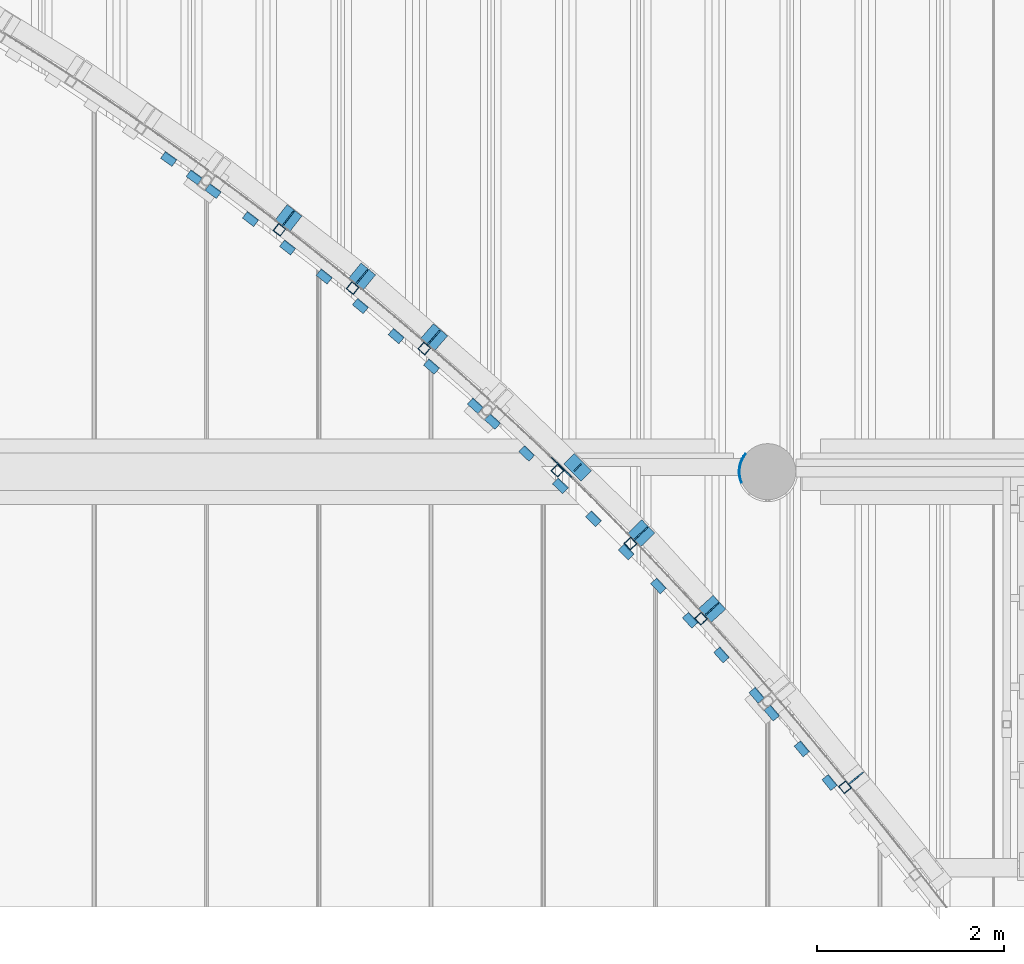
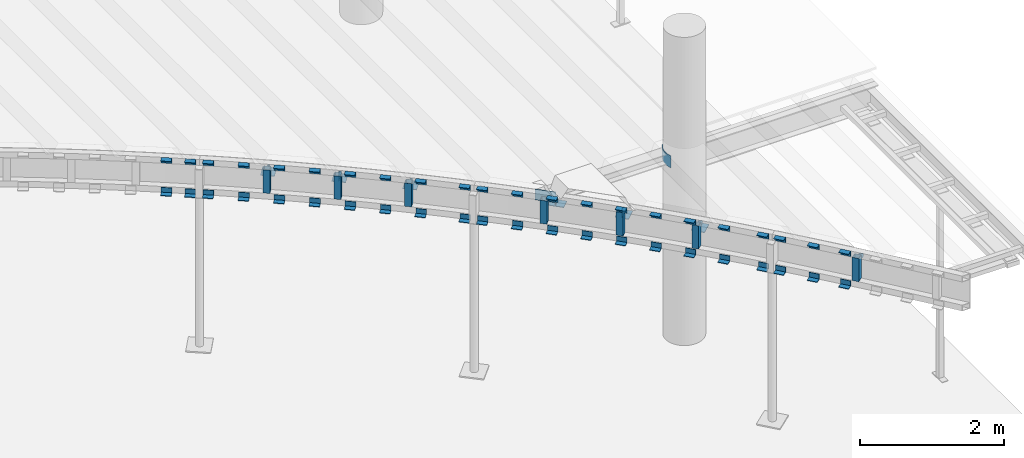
# One storey, part 24 of 98: 66 beams.
"""IFC2X3 building model written with IfcOpenShell, lengths in millimetres."""

from ifc_helpers import new_model, entity, si_unit, converted_unit, derived_unit, direction, frame, origin_with_axes, place, context, subcontext, project, spatial, faceted_brep, material, type_object, element, save


model = new_model("IFC2X3")

# Units and contexts
model_context = context("Model", 3, precision=0.01, world=frame((0.0, 4.29681676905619e-09, 0.0)), true_north=direction((4.01073788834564e-13, 1.0)))
plan_context = context("Plan", 3, precision=0.01, world=frame((0.0, 4.29681676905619e-09, 0.0)), true_north=direction((4.01073788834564e-13, 1.0)))
body_context = subcontext(model_context, "Body", "Model", "MODEL_VIEW")
ifc_project = project(units=[converted_unit("PLANEANGLEUNIT", "DEGREE", entity("IfcPositiveLengthMeasure", 0.0174532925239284), si_unit("PLANEANGLEUNIT", "RADIAN"), dimensions=[0, 0, 0, 0, 0, 0, 0]), si_unit("AREAUNIT", "SQUARE_METRE"), si_unit("LENGTHUNIT", "METRE", prefix="MILLI"), si_unit("MASSUNIT", "GRAM", prefix="KILO"), si_unit("POWERUNIT", "WATT"), si_unit("PRESSUREUNIT", "PASCAL"), si_unit("FORCEUNIT", "NEWTON", prefix="KILO"), si_unit("ELECTRICCURRENTUNIT", "AMPERE"), si_unit("THERMODYNAMICTEMPERATUREUNIT", "DEGREE_CELSIUS"), si_unit("TIMEUNIT", "SECOND"), si_unit("VOLUMEUNIT", "CUBIC_METRE"), derived_unit("LINEARVELOCITYUNIT", [(si_unit("LENGTHUNIT", "METRE"), 1), (si_unit("TIMEUNIT", "SECOND"), -1)]), derived_unit("VOLUMETRICFLOWRATEUNIT", [(si_unit("VOLUMEUNIT", "CUBIC_METRE"), 1), (si_unit("TIMEUNIT", "SECOND"), -1)]), derived_unit("THERMALTRANSMITTANCEUNIT", [(si_unit("POWERUNIT", "WATT"), 1), (si_unit("THERMODYNAMICTEMPERATUREUNIT", "KELVIN"), -1), (si_unit("AREAUNIT", "SQUARE_METRE"), -1)])], contexts=[model_context, plan_context])

# Site, building, storey
site_placement = place(None, frame((0.0, -4.29681676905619e-09, 0.0), z_axis=(0.0, 0.0, 1.0), x_axis=(1.0, 0.0, 0.0)))
site = spatial("IfcSite", under=ifc_project, at=site_placement, Name="Gardermoen", CompositionType="ELEMENT")
building_placement = place(site_placement, frame((0.0, 4.29681676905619e-09, 0.0), z_axis=(0.0, 0.0, 1.0), x_axis=(1.0, 0.0, 0.0)))
building = spatial("IfcBuilding", under=site, at=building_placement, Name="TS", CompositionType="ELEMENT")
storey_placement = place(building_placement, origin_with_axes())
storey = spatial("IfcBuildingStorey", under=building, at=storey_placement, Name="D", CompositionType="ELEMENT", Elevation=0.0)

# Beams
ifc_material = material(Name="STEEL/S355")
beam_type_1 = type_object("IfcBeamType", Name="PL10*200", PredefinedType="NOTDEFINED")
beam_1_placement = place(storey_placement, frame((528761.674896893, 405689.169281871, 207014.501811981), z_axis=(0.0, 0.0, 1.0), x_axis=(-0.138014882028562, -0.990430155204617, 0.0)))
element("IfcBeam", 1, at=beam_1_placement, inside=storey, type_object=beam_type_1, material=ifc_material, Name="STÅLBJELKE", ObjectType="PL10*200", context=body_context, shape_type="Brep", body=[
    faceted_brep([(2.52811028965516, 4.31377541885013, -100.0), (2.52811028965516, 4.31377541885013, 100.0), (30.7693738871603, -10.2847250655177, 100.0), (30.7693738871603, -10.2847250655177, -100.0), (-2.52811028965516, -4.3137754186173, 100.0), (26.6545287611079, -19.3988925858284, 100.0), (-2.52811028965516, -4.3137754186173, -100.0), (26.6545287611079, -19.3988925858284, -100.0), (60.3969084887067, -21.8127075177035, 100.0), (60.3969084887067, -21.8127075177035, -100.0), (57.2696478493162, -31.3111411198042, 100.0), (57.2696478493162, -31.3111411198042, -100.0), (91.078001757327, -30.1407145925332, 100.0), (91.078001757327, -30.1407145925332, -100.0), (88.9734442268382, -39.9167484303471, 100.0), (88.9734442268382, -39.9167484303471, -100.0), (122.468110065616, -35.1752241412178, 100.0), (122.468110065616, -35.1752241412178, -100.0), (121.40988947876, -45.1190749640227, 100.0), (121.40988947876, -45.1190749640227, -100.0), (154.214727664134, -36.8596994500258, 100.0), (154.214727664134, -36.8596994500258, -100.0), (154.214727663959, -46.8596994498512, 100.0), (154.214727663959, -46.8596994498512, -100.0), (185.961345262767, -35.1752241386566, 100.0), (185.961345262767, -35.1752241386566, -100.0), (187.019565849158, -45.119074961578, 100.0), (187.019565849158, -45.119074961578, -100.0), (217.351453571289, -30.140714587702, 100.0), (217.351453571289, -30.140714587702, -100.0), (219.456011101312, -39.916748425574, 100.0), (219.456011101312, -39.916748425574, -100.0), (248.032546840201, -21.8127075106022, 100.0), (248.032546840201, -21.8127075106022, -100.0), (251.159807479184, -31.3111411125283, 100.0), (251.159807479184, -31.3111411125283, -100.0), (277.660081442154, -10.2847250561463, 100.0), (277.660081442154, -10.2847250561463, -100.0), (281.774926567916, -19.3988925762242, 100.0), (281.774926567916, -19.3988925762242, -100.0), (305.9013450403, 4.31377543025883, 100.0), (305.9013450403, 4.31377543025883, -100.0), (310.957565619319, -4.31377540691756, 100.0), (310.957565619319, -4.31377540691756, -100.0)], [[[0, 1, 2, 3]], [[1, 4, 5, 2]], [[4, 6, 7, 5]], [[6, 0, 3, 7]], [[6, 4, 1, 0]], [[3, 2, 8, 9]], [[2, 5, 10, 8]], [[5, 7, 11, 10]], [[7, 3, 9, 11]], [[9, 8, 12, 13]], [[8, 10, 14, 12]], [[10, 11, 15, 14]], [[11, 9, 13, 15]], [[13, 12, 16, 17]], [[12, 14, 18, 16]], [[14, 15, 19, 18]], [[15, 13, 17, 19]], [[17, 16, 20, 21]], [[16, 18, 22, 20]], [[18, 19, 23, 22]], [[19, 17, 21, 23]], [[21, 20, 24, 25]], [[20, 22, 26, 24]], [[22, 23, 27, 26]], [[23, 21, 25, 27]], [[25, 24, 28, 29]], [[24, 26, 30, 28]], [[26, 27, 31, 30]], [[27, 25, 29, 31]], [[29, 28, 32, 33]], [[28, 30, 34, 32]], [[30, 31, 35, 34]], [[31, 29, 33, 35]], [[33, 32, 36, 37]], [[32, 34, 38, 36]], [[34, 35, 39, 38]], [[35, 33, 37, 39]], [[37, 36, 40, 41]], [[36, 38, 42, 40]], [[38, 39, 43, 42]], [[39, 37, 41, 43]], [[42, 43, 41, 40]]]),
])
for number, where, z_axis, x_axis in (
    (2, (527792.136873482, 404842.479803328, 206828.0), (-0.721485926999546, -0.69242909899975, 0.0), (-0.69242909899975, 0.721485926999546, 0.0)),
    (3, (524807.769576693, 407603.283677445, 206828.0), (-0.635772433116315, -0.771876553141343, 0.0), (-0.771876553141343, 0.635772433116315, 0.0)),
    (4, (524020.836157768, 408232.226948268, 206828.0), (-0.616724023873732, -0.787179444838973, 0.0), (-0.787179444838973, 0.616724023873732, 0.0)),
):
    element("IfcBeam", number, at=place(storey_placement, frame(where, z_axis=z_axis, x_axis=x_axis)), inside=storey, type_object=beam_type_1, material=ifc_material, Name="STÅLBJELKE", ObjectType="PL10*200", context=body_context, shape_type="Brep", body=[
        faceted_brep([(0.0, -5.0, 0.0), (-0.454028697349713, -5.0, 209.566192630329), (-0.454028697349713, 5.0, 209.566192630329), (0.0, 5.0, 0.0), (199.544097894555, -5.0, 210.432800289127), (199.544097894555, 5.0, 210.432800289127), (200.0, -5.0, 0.0), (200.0, 5.0, -5.82076609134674e-11)], [[[0, 1, 2, 3]], [[1, 4, 5, 2]], [[4, 6, 7, 5]], [[6, 0, 3, 7]], [[5, 7, 3, 2]], [[6, 4, 1, 0]]]),
    ])
beam_2_placement = place(storey_placement, frame((525577.704154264, 406951.075389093, 206828.0), z_axis=(-0.657076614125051, -0.753823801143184, 0.0), x_axis=(-0.753823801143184, 0.657076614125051, 0.0)))
element("IfcBeam", 5, at=beam_2_placement, inside=storey, type_object=beam_type_1, material=ifc_material, Name="STÅLBJELKE", ObjectType="PL10*200", context=body_context, shape_type="Brep", body=[
    faceted_brep([(0.0, -5.0, 0.0), (-0.454967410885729, -5.0, 209.999496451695), (-0.454967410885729, 5.0, 209.999496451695), (0.0, 5.0, 0.0), (199.54315186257, -5.0, 210.86610411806), (199.54315186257, 5.0, 210.86610411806), (200.0, -5.0, 0.0), (200.0, 5.0, -5.82076609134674e-11)], [[[0, 1, 2, 3]], [[1, 4, 5, 2]], [[4, 6, 7, 5]], [[6, 0, 3, 7]], [[5, 7, 3, 2]], [[6, 4, 1, 0]]]),
])
beam_3_placement = place(storey_placement, frame((528550.68479424, 404030.339726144, 206828.0), z_axis=(-0.740538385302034, -0.672014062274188, 0.0), x_axis=(-0.672014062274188, 0.740538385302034, 0.0)))
element("IfcBeam", 6, at=beam_3_placement, inside=storey, type_object=beam_type_1, material=ifc_material, Name="STÅLBJELKE", ObjectType="PL10*200", context=body_context, shape_type="Brep", body=[
    faceted_brep([(0.0, -5.0, 0.0), (-0.454028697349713, -5.0, 209.566192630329), (-0.454028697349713, 5.0, 209.566192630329), (0.0, 5.0, 0.0), (199.544097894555, -5.0, 210.432800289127), (199.544097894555, 5.0, 210.432800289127), (200.0, -5.0, 0.0), (200.0, 5.0, -5.82076609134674e-11)], [[[0, 1, 2, 3]], [[1, 4, 5, 2]], [[4, 6, 7, 5]], [[6, 0, 3, 7]], [[5, 7, 3, 2]], [[6, 4, 1, 0]]]),
])
beam_type_2 = type_object("IfcBeamType", Name="PL10*180", PredefinedType="NOTDEFINED")
beam_4_placement = place(storey_placement, frame((526688.386806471, 405650.940677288, 207010.0), z_axis=(0.0, 0.0, 1.0), x_axis=(0.717918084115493, -0.696127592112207, 0.0)))
element("IfcBeam", 7, at=beam_4_placement, inside=storey, type_object=beam_type_2, material=ifc_material, Name="STÅLBJELKE", ObjectType="PL10*180", context=body_context, shape_type="Brep", body=[
    faceted_brep([(-1.19325704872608e-09, 4.99999999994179, -90.0000000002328), (0.0, 5.0, 90.0), (299.985345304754, 4.99999999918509, 90.0), (299.985345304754, 4.99999999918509, -90.0), (0.0, -5.0, 90.0), (299.985345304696, -5.00000000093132, 90.0), (-1.07684172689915e-09, -5.00000000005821, -90.0000000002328), (299.985345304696, -5.00000000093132, -90.0)], [[[0, 1, 2, 3]], [[1, 4, 5, 2]], [[4, 6, 7, 5]], [[6, 0, 3, 7]], [[5, 7, 3, 2]], [[6, 4, 1, 0]]]),
])
beam_type_3 = type_object("IfcBeamType", Name="L90*9", PredefinedType="NOTDEFINED")
for number, where, z_axis, x_axis in (
    (8, (528221.931546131, 403857.479188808, 207055.0), (0.0, 0.0, -1.0), (-0.674298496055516, 0.738458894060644, 0.0)),
    (9, (528221.931546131, 403857.479188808, 206550.0), (-0.738458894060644, -0.674298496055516, 0.0), (-0.674298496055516, 0.738458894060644, 0.0)),
    (10, (527883.537185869, 404224.536880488, 207055.0), (0.0, 0.0, -1.0), (-0.684670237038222, 0.728852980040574, 0.0)),
    (11, (527883.53718587, 404224.536880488, 206550.0), (-0.728852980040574, -0.684670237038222, 0.0), (-0.684670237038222, 0.728852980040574, 0.0)),
    (12, (527539.812221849, 404586.83480368, 207055.0), (0.0, 0.0, -1.0), (-0.695059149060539, 0.71895255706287, 0.0)),
    (13, (527539.812221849, 404586.83480368, 206550.0), (-0.71895255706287, -0.695059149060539, 0.0), (-0.695059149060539, 0.71895255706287, 0.0)),
    (14, (527190.696492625, 404944.383355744, 207055.0), (0.0, 0.0, -1.0), (-0.705329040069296, 0.708880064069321, 0.0)),
    (15, (527190.696492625, 404944.383355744, 206550.0), (-0.708880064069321, -0.705329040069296, 0.0), (-0.705329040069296, 0.708880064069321, 0.0)),
    (16, (526836.860566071, 405296.500603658, 207055.0), (0.0, 0.0, -1.0), (-0.715158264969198, 0.698962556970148, 0.0)),
    (17, (526836.860566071, 405296.500603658, 206550.0), (-0.698962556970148, -0.715158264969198, 0.0), (-0.715158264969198, 0.698962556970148, 0.0)),
    (18, (526477.854136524, 405643.644991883, 207055.0), (0.0, 0.0, -1.0), (-0.725215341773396, 0.688522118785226, 0.0)),
    (19, (526477.854136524, 405643.644991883, 206550.0), (-0.688522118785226, -0.725215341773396, 0.0), (-0.725215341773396, 0.688522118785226, 0.0)),
    (20, (529412.232593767, 402480.04978529, 207055.0), (0.0, 0.0, -1.0), (-0.639493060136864, 0.768796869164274, 0.0)),
    (21, (529412.232593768, 402480.04978529, 206550.0), (-0.768796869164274, -0.639493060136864, 0.0), (-0.639493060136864, 0.768796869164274, 0.0)),
    (22, (522930.791932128, 408602.874962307, 207055.0), (0.0, 0.0, -1.0), (-0.8096776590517, 0.586874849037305, 0.0)),
    (23, (522930.791932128, 408602.874962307, 206550.0), (-0.586874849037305, -0.8096776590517, 0.0), (-0.8096776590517, 0.586874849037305, 0.0)),
    (24, (522658.446469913, 408799.20883531, 207055.0), (0.0, 0.0, -1.0), (-0.81551570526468, 0.578734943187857, 0.0)),
    (25, (522658.446469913, 408799.20883531, 206550.0), (-0.578734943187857, -0.81551570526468, 0.0), (-0.81551570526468, 0.578734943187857, 0.0)),
    (26, (526114.183055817, 405985.333559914, 207055.0), (0.0, 0.0, -1.0), (-0.735153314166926, 0.677900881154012, 0.0)),
    (27, (526114.183055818, 405985.333559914, 206550.0), (-0.677900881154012, -0.735153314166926, 0.0), (-0.735153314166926, 0.677900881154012, 0.0)),
    (28, (524317.787565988, 407539.678049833, 207055.0), (0.0, 0.0, -1.0), (-0.779471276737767, 0.626437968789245, 0.0)),
    (29, (525930.122247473, 406154.585167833, 207055.0), (0.0, 0.0, -1.0), (-0.739730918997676, 0.672902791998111, 0.0)),
    (30, (523926.967146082, 407850.537926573, 207055.0), (0.0, 0.0, -1.0), (-0.788398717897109, 0.615164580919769, 0.0)),
    (31, (525462.799885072, 406573.880991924, 207055.0), (0.0, 0.0, -1.0), (-0.751772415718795, 0.659422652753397, 0.0)),
    (32, (523531.809809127, 408155.709665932, 207055.0), (0.0, 0.0, -1.0), (-0.797129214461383, 0.603808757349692, 0.0)),
    (33, (525085.762153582, 406901.291489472, 207055.0), (0.0, 0.0, -1.0), (-0.761157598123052, 0.648566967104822, 0.0)),
    (34, (523132.436499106, 408455.037311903, 207055.0), (0.0, 0.0, -1.0), (-0.805664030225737, 0.592372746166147, 0.0)),
    (35, (524704.051997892, 407223.245397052, 207055.0), (0.0, 0.0, -1.0), (-0.770371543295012, 0.637595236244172, 0.0)),
    (36, (528930.255224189, 403053.783349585, 207055.0), (0.0, 0.0, -1.0), (-0.651204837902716, 0.758902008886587, 0.0)),
    (37, (528555.055345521, 403485.717370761, 207055.0), (0.0, 0.0, -1.0), (-0.663553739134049, 0.748128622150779, 0.0)),
    (38, (529092.105359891, 402862.933440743, 207055.0), (0.0, 0.0, -1.0), (-0.645192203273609, 0.764020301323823, 0.0)),
    (39, (529708.688827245, 402120.384010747, 207055.0), (0.0, 0.0, -1.0), (-0.634622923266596, 0.772821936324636, 0.0)),
    (40, (529092.105359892, 402862.933440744, 206550.0), (-0.764020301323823, -0.645192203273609, 0.0), (-0.645192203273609, 0.764020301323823, 0.0)),
    (41, (529708.688827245, 402120.384010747, 206550.0), (-0.772821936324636, -0.634622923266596, 0.0), (-0.634622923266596, 0.772821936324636, 0.0)),
    (42, (528930.25522419, 403053.783349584, 206550.0), (-0.758902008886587, -0.651204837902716, 0.0), (-0.651204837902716, 0.758902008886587, 0.0)),
    (43, (528555.055345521, 403485.717370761, 206550.0), (-0.748128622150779, -0.663553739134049, 0.0), (-0.663553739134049, 0.748128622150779, 0.0)),
    (44, (524317.787565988, 407539.678049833, 206550.0), (-0.626437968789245, -0.779471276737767, 0.0), (-0.779471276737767, 0.626437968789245, 0.0)),
    (45, (525930.122247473, 406154.585167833, 206550.0), (-0.672902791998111, -0.739730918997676, 0.0), (-0.739730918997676, 0.672902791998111, 0.0)),
    (46, (523926.967146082, 407850.537926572, 206550.0), (-0.615164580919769, -0.788398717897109, 0.0), (-0.788398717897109, 0.615164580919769, 0.0)),
    (47, (525462.799885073, 406573.880991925, 206550.0), (-0.659422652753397, -0.751772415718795, 0.0), (-0.751772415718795, 0.659422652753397, 0.0)),
    (48, (523531.809809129, 408155.709665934, 206550.0), (-0.603808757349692, -0.797129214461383, 0.0), (-0.797129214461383, 0.603808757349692, 0.0)),
    (49, (525085.762153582, 406901.29148947, 206550.0), (-0.648566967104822, -0.761157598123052, 0.0), (-0.761157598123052, 0.648566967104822, 0.0)),
    (50, (523132.436499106, 408455.037311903, 206550.0), (-0.592372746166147, -0.805664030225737, 0.0), (-0.805664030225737, 0.592372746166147, 0.0)),
    (51, (524704.051997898, 407223.245397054, 206550.0), (-0.637595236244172, -0.770371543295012, 0.0), (-0.770371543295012, 0.637595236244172, 0.0)),
):
    element("IfcBeam", number, at=place(storey_placement, frame(where, z_axis=z_axis, x_axis=x_axis)), inside=storey, type_object=beam_type_3, material=ifc_material, Name="STÅLBJELKE", ObjectType="L90*9", context=body_context, shape_type="Brep", body=[
        faceted_brep([(3.49245965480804e-10, 45.0, -45.0), (-3.20142135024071e-10, 45.0, 45.0), (150.176599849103, 44.999999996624, 45.0), (150.176599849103, 44.999999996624, -45.0), (6.98491930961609e-10, 36.0, 45.0000000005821), (150.176599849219, 35.999999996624, 45.0), (-4.07453626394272e-10, 36.0, -36.0000000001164), (150.176599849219, 35.999999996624, -36.0), (-5.23868948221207e-10, -45.0, -36.0000000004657), (150.176599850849, -45.0000000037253, -36.0), (3.49245965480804e-10, -45.0, -45.0), (150.176599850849, -45.0000000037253, -45.0)], [[[0, 1, 2, 3]], [[1, 4, 5, 2]], [[4, 6, 7, 5]], [[6, 8, 9, 7]], [[8, 10, 11, 9]], [[10, 0, 3, 11]], [[5, 7, 9, 11, 3, 2]], [[10, 8, 6, 4, 1, 0]]]),
    ])
beam_type_4 = type_object("IfcBeamType", Name="PL10*150", PredefinedType="NOTDEFINED")
for number, where, z_axis, x_axis in (
    (52, (527712.774503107, 404904.881371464, 206983.0), (-0.719969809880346, -0.694005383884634, 0.0), (0.0, 0.0, -1.0)),
    (53, (524721.668762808, 407655.999817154, 206983.0), (-0.634082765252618, -0.773265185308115, 0.0), (0.0, 0.0, -1.0)),
    (54, (530019.415748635, 402284.875733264, 206983.0), (-0.777710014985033, -0.628623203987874, 0.0), (0.0, 0.0, -1.0)),
    (55, (523933.455717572, 408282.802806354, 206983.0), (-0.615012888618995, -0.788517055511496, 0.0), (0.0, 0.0, -1.0)),
    (56, (525492.870734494, 407005.916111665, 206983.0), (-0.655443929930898, -0.755243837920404, 0.0), (0.0, 0.0, -1.0)),
    (57, (528473.015358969, 404094.85227819, 206983.0), (-0.739033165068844, -0.673669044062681, 0.0), (0.0, 0.0, -1.0)),
):
    element("IfcBeam", number, at=place(storey_placement, frame(where, z_axis=z_axis, x_axis=x_axis)), inside=storey, type_object=beam_type_4, material=ifc_material, Name="STÅLBJELKE", ObjectType="PL10*150", context=body_context, shape_type="Brep", body=[
        faceted_brep([(0.0, -5.0, 150.0), (2.91038304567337e-11, -5.0000000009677, 195.946411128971), (2.91038304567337e-11, 4.99999999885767, 195.946411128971), (0.0, 5.0, 150.0), (150.0, -5.0000000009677, 195.946411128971), (150.0, 4.99999999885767, 195.946411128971), (150.0, -4.99999999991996, 0.0), (150.0, 4.99999999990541, 1.16415321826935e-10), (99.9999999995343, -4.99999999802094, 7.21774995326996e-09), (99.9999999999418, 5.00000000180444, 6.81029632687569e-09)], [[[0, 1, 2, 3]], [[1, 4, 5, 2]], [[4, 6, 7, 5]], [[6, 8, 9, 7]], [[8, 0, 3, 9]], [[5, 7, 9, 3, 2]], [[8, 6, 4, 1, 0]]]),
    ])
beam_type_5 = type_object("IfcBeamType", Name="PL10*160", PredefinedType="NOTDEFINED")
beam_5_placement = place(storey_placement, frame((527116.599566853, 405509.229088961, 206828.0), z_axis=(-0.707109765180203, -0.7071037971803, 0.0), x_axis=(-0.7071037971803, 0.707109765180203, 0.0)))
element("IfcBeam", 58, at=beam_5_placement, inside=storey, type_object=beam_type_5, material=ifc_material, Name="STÅLBJELKE", ObjectType="PL10*160", context=body_context, shape_type="Brep", body=[
    faceted_brep([(0.0, -5.0, 0.0), (-0.000675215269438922, -5.0, 160.000000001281), (-0.000675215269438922, 5.0, 160.000000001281), (0.0, 5.0, 0.0), (259.997467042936, -5.0, 159.999999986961), (259.997467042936, 5.0, 159.999999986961), (260.000000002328, -5.0, -1.92085281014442e-08), (260.000000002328, 5.0, -1.92085281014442e-08)], [[[0, 1, 2, 3]], [[1, 4, 5, 2]], [[4, 6, 7, 5]], [[6, 0, 3, 7]], [[5, 7, 3, 2]], [[6, 4, 1, 0]]]),
])
beam_type_6 = type_object("IfcBeamType", Name="PL10*96", PredefinedType="NOTDEFINED")
beam_6_placement = place(storey_placement, frame((527003.466073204, 405579.943358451, 206929.0), z_axis=(-0.707100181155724, -0.707113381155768, 0.0), x_axis=(0.0, 0.0, -1.0)))
element("IfcBeam", 59, at=beam_6_placement, inside=storey, type_object=beam_type_6, material=ifc_material, Name="STÅLBJELKE", ObjectType="PL10*96", context=body_context, shape_type="Brep", body=[
    faceted_brep([(0.0, -5.0, 0.0), (-4.13769157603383e-06, -5.0, 100.0), (-4.13763336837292e-06, 4.99999999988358, 100.0), (0.0, 5.0, 0.0), (96.0, -4.99999999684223, 100.000000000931), (96.0, 5.00000000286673, 100.000000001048), (96.0, -4.99999999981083, -1.16415321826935e-10), (96.0, 4.99999999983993, 0.0)], [[[0, 1, 2, 3]], [[1, 4, 5, 2]], [[4, 6, 7, 5]], [[6, 0, 3, 7]], [[5, 7, 3, 2]], [[6, 4, 1, 0]]]),
])
beam_type_7 = type_object("IfcBeamType", Name="RHS100*6.3", PredefinedType="NOTDEFINED")
for number, where, z_axis, x_axis in (
    (60, (527532.69173021, 404731.822439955, 206605.0), (-0.72537437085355, -0.688354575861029, 0.0), (0.0, 0.0, 1.0)),
    (61, (524563.244902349, 407462.576301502, 206605.0), (0.774944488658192, -0.632029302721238, 0.0), (0.0, 0.0, 1.0)),
    (62, (526753.185614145, 405510.888555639, 206605.0), (-0.695912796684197, -0.718126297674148, 0.0), (0.0, 0.0, 1.0)),
    (63, (529825.495630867, 402127.365637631, 206605.0), (-0.777145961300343, -0.629320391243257, 0.0), (0.0, 0.0, 1.0)),
    (64, (528285.969897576, 403929.024749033, 206605.0), (-0.737277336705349, -0.675590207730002, 0.0), (0.0, 0.0, 1.0)),
    (65, (523779.807697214, 408085.723281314, 206605.0), (0.789084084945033, -0.614285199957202, 0.0), (0.0, 0.0, 1.0)),
    (66, (525329.014669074, 406817.034709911, 206605.0), (0.755853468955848, -0.654740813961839, 0.0), (0.0, 0.0, 1.0)),
):
    element("IfcBeam", number, at=place(storey_placement, frame(where, z_axis=z_axis, x_axis=x_axis)), inside=storey, type_object=beam_type_7, material=ifc_material, Name="STÅLBJELKE", ObjectType="RHS100*6.3", context=body_context, shape_type="Brep", body=[
        faceted_brep([(0.0, 43.6999998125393, -43.6999998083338), (0.0, -43.6999998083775, -43.6999998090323), (395.0, -43.6999998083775, -43.6999998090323), (395.0, 43.6999998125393, -43.6999998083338), (0.0, -43.6999998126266, 43.699999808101), (395.0, -43.6999998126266, 43.699999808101), (0.0, 43.6999998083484, 43.6999998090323), (395.0, 43.6999998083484, 43.6999998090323), (4.07453626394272e-10, 50.0, -50.0), (-3.49245965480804e-10, 50.0, 50.0), (394.999999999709, 50.0, 50.0), (394.999999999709, 50.0, -50.0), (-3.49245965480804e-10, -50.0, 50.0), (394.999999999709, -50.0, 50.0), (4.07453626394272e-10, -50.0, -50.0), (394.999999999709, -50.0, -50.0)], [[[0, 1, 2, 3]], [[1, 4, 5, 2]], [[4, 6, 7, 5]], [[6, 0, 3, 7]], [[8, 9, 10, 11]], [[9, 12, 13, 10]], [[12, 14, 15, 13]], [[14, 8, 11, 15]], [[13, 15, 11, 10], [5, 7, 3, 2]], [[14, 12, 9, 8], [6, 4, 1, 0]]]),
    ])

save(model, "model.ifc")
